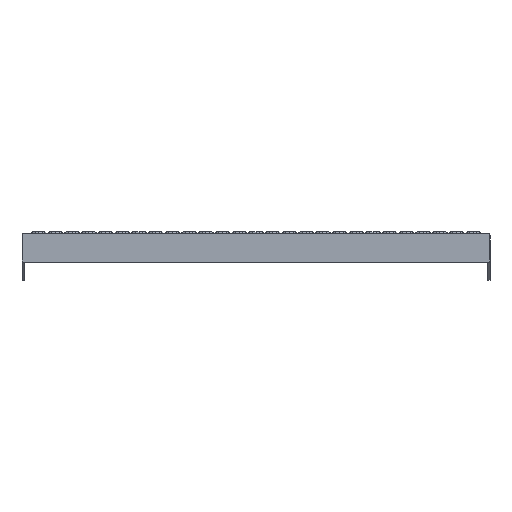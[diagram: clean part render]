
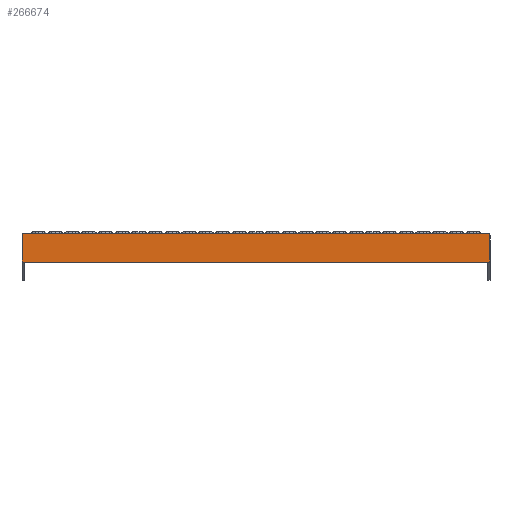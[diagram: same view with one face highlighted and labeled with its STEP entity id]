
A CAD part, front view. The second image highlights one B-rep face of the part: STEP entity #266674.
In plain terms, the highlighted planar face has unit normal (0, -1, 0).
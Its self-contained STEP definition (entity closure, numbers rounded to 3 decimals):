
#266674 = ADVANCED_FACE('',(#266675),#266689,.T.);
#266675 = FACE_BOUND('',#266676,.T.);
#266676 = EDGE_LOOP('',(#266677,#266700,#266716,#266732));
#266677 = ORIENTED_EDGE('',*,*,#266678,.T.);
#266678 = EDGE_CURVE('',#266679,#266681,#266683,.T.);
#266679 = VERTEX_POINT('',#266680);
#266680 = CARTESIAN_POINT('',(6700.,8770.,
    0.));
#266681 = VERTEX_POINT('',#266682);
#266682 = CARTESIAN_POINT('',(6000.,8770.,
    0.));
#266683 = SURFACE_CURVE('',#266684,(#266688),.PCURVE_S1.);
#266684 = LINE('',#266685,#266686);
#266685 = CARTESIAN_POINT('',(6700.,8770.,
    0.));
#266686 = VECTOR('',#266687,1.);
#266687 = DIRECTION('',(-1.,0.,0.));
#266688 = PCURVE('',#266689,#266694);
#266689 = PLANE('',#266690);
#266690 = AXIS2_PLACEMENT_3D('',#266691,#266692,#266693);
#266691 = CARTESIAN_POINT('',(6350.,8770.,
    -21.25));
#266692 = DIRECTION('',(-0.,-1.,-0.));
#266693 = DIRECTION('',(0.,0.,-1.));
#266694 = DEFINITIONAL_REPRESENTATION('',(#266695),#266699);
#266695 = LINE('',#266696,#266697);
#266696 = CARTESIAN_POINT('',(-21.25,350.));
#266697 = VECTOR('',#266698,1.);
#266698 = DIRECTION('',(0.,-1.));
#266699 = ( GEOMETRIC_REPRESENTATION_CONTEXT(2) 
PARAMETRIC_REPRESENTATION_CONTEXT() REPRESENTATION_CONTEXT('2D SPACE',''
  ) );
#266700 = ORIENTED_EDGE('',*,*,#266701,.T.);
#266701 = EDGE_CURVE('',#266681,#266702,#266704,.T.);
#266702 = VERTEX_POINT('',#266703);
#266703 = CARTESIAN_POINT('',(6000.,8770.,-42.5)
  );
#266704 = SURFACE_CURVE('',#266705,(#266709),.PCURVE_S1.);
#266705 = LINE('',#266706,#266707);
#266706 = CARTESIAN_POINT('',(6000.,8770.,
    0.));
#266707 = VECTOR('',#266708,1.);
#266708 = DIRECTION('',(0.,0.,-1.));
#266709 = PCURVE('',#266689,#266710);
#266710 = DEFINITIONAL_REPRESENTATION('',(#266711),#266715);
#266711 = LINE('',#266712,#266713);
#266712 = CARTESIAN_POINT('',(-21.25,-350.));
#266713 = VECTOR('',#266714,1.);
#266714 = DIRECTION('',(1.,0.));
#266715 = ( GEOMETRIC_REPRESENTATION_CONTEXT(2) 
PARAMETRIC_REPRESENTATION_CONTEXT() REPRESENTATION_CONTEXT('2D SPACE',''
  ) );
#266716 = ORIENTED_EDGE('',*,*,#266717,.T.);
#266717 = EDGE_CURVE('',#266702,#266718,#266720,.T.);
#266718 = VERTEX_POINT('',#266719);
#266719 = CARTESIAN_POINT('',(6700.,8770.,
    -42.5));
#266720 = SURFACE_CURVE('',#266721,(#266725),.PCURVE_S1.);
#266721 = LINE('',#266722,#266723);
#266722 = CARTESIAN_POINT('',(6000.,8770.,-42.5)
  );
#266723 = VECTOR('',#266724,1.);
#266724 = DIRECTION('',(1.,0.,0.));
#266725 = PCURVE('',#266689,#266726);
#266726 = DEFINITIONAL_REPRESENTATION('',(#266727),#266731);
#266727 = LINE('',#266728,#266729);
#266728 = CARTESIAN_POINT('',(21.25,-350.));
#266729 = VECTOR('',#266730,1.);
#266730 = DIRECTION('',(0.,1.));
#266731 = ( GEOMETRIC_REPRESENTATION_CONTEXT(2) 
PARAMETRIC_REPRESENTATION_CONTEXT() REPRESENTATION_CONTEXT('2D SPACE',''
  ) );
#266732 = ORIENTED_EDGE('',*,*,#266733,.T.);
#266733 = EDGE_CURVE('',#266718,#266679,#266734,.T.);
#266734 = SURFACE_CURVE('',#266735,(#266739),.PCURVE_S1.);
#266735 = LINE('',#266736,#266737);
#266736 = CARTESIAN_POINT('',(6700.,8770.,
    -42.5));
#266737 = VECTOR('',#266738,1.);
#266738 = DIRECTION('',(0.,0.,1.));
#266739 = PCURVE('',#266689,#266740);
#266740 = DEFINITIONAL_REPRESENTATION('',(#266741),#266745);
#266741 = LINE('',#266742,#266743);
#266742 = CARTESIAN_POINT('',(21.25,350.));
#266743 = VECTOR('',#266744,1.);
#266744 = DIRECTION('',(-1.,0.));
#266745 = ( GEOMETRIC_REPRESENTATION_CONTEXT(2) 
PARAMETRIC_REPRESENTATION_CONTEXT() REPRESENTATION_CONTEXT('2D SPACE',''
  ) );
